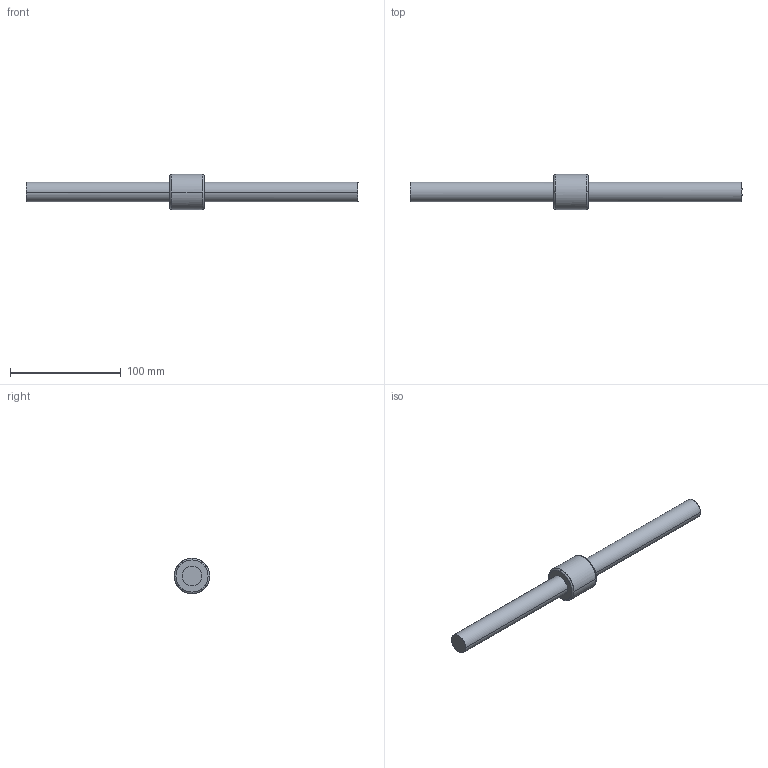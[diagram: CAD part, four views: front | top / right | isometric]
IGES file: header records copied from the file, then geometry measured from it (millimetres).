
Global section: file name: No Iges File Name specified; native system: AutoDesk Inventor R10; preprocessor: AutoDesk Inventor Iges Exporter R10; author: No Author specified; organization: No Organization specified; date: 20101224.154614; units: millimetre
Bounding box: 300 x 32 x 32 mm (x, y, z)
Surface area: 23311.1 mm2 (no closed solid volume)
Topology: 0 solids, 0 shells, 14 faces, 84 edges, 84 vertices
Faces by surface type: bspline 14
